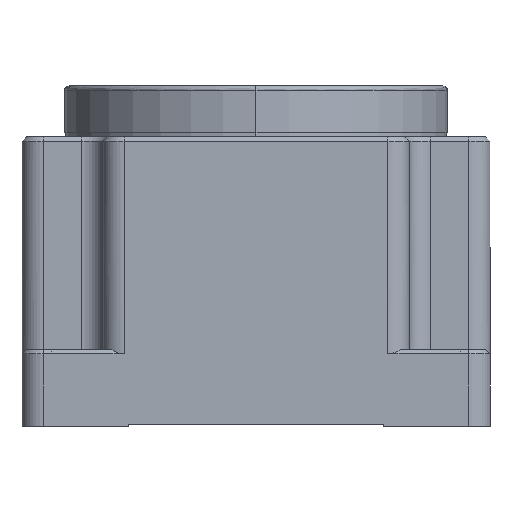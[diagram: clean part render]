
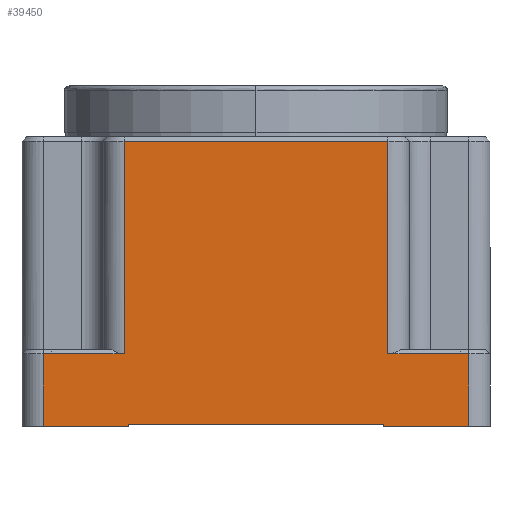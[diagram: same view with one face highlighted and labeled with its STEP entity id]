
A CAD part, left-side view. The second image highlights one B-rep face of the part: STEP entity #39450.
In plain terms, the highlighted planar face has unit normal (-1, 0, 0).
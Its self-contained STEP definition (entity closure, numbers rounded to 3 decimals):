
#359 = EDGE_CURVE ( 'NONE', #35504, #26857, #725, .T. ) ;
#725 = LINE ( 'NONE', #34682, #20765 ) ;
#1179 = CARTESIAN_POINT ( 'NONE',  ( -55., -30., 0.5 ) ) ;
#1224 = VECTOR ( 'NONE', #3228, 1000. ) ;
#1441 = CARTESIAN_POINT ( 'NONE',  ( -55., 50., 68. ) ) ;
#2102 = LINE ( 'NONE', #32654, #52202 ) ;
#2258 = LINE ( 'NONE', #1441, #47690 ) ;
#3228 = DIRECTION ( 'NONE',  ( 0., 0., -1. ) ) ;
#3431 = VERTEX_POINT ( 'NONE', #10629 ) ;
#3775 = ORIENTED_EDGE ( 'NONE', *, *, #40739, .F. ) ;
#5292 = CARTESIAN_POINT ( 'NONE',  ( -55., -55., 0. ) ) ;
#5529 = DIRECTION ( 'NONE',  ( 0., 1., 0. ) ) ;
#6047 = LINE ( 'NONE', #23150, #43224 ) ;
#6172 = LINE ( 'NONE', #37025, #35020 ) ;
#7835 = DIRECTION ( 'NONE',  ( 0., -1., 0. ) ) ;
#9209 = ORIENTED_EDGE ( 'NONE', *, *, #25026, .T. ) ;
#9716 = CARTESIAN_POINT ( 'NONE',  ( -55., -55., 0. ) ) ;
#9832 = DIRECTION ( 'NONE',  ( 0., 0., 1. ) ) ;
#10629 = CARTESIAN_POINT ( 'NONE',  ( -55., 31., 67. ) ) ;
#11403 = EDGE_LOOP ( 'NONE', ( #54863, #3775, #21059, #36455, #9209, #11675, #33981, #16836, #26691, #23672, #23327, #44450 ) ) ;
#11566 = CARTESIAN_POINT ( 'NONE',  ( -55., 31., 17. ) ) ;
#11675 = ORIENTED_EDGE ( 'NONE', *, *, #27032, .F. ) ;
#12901 = LINE ( 'NONE', #21568, #50063 ) ;
#13304 = EDGE_CURVE ( 'NONE', #18276, #35504, #28059, .T. ) ;
#13365 = CARTESIAN_POINT ( 'NONE',  ( -55., 50., 0. ) ) ;
#15105 = LINE ( 'NONE', #32491, #46872 ) ;
#15494 = VECTOR ( 'NONE', #46506, 1000. ) ;
#16836 = ORIENTED_EDGE ( 'NONE', *, *, #359, .F. ) ;
#17076 = LINE ( 'NONE', #54942, #15494 ) ;
#17311 = AXIS2_PLACEMENT_3D ( 'NONE', #19867, #33331, #40903 ) ;
#17480 = VECTOR ( 'NONE', #5529, 1000. ) ;
#18253 = VECTOR ( 'NONE', #18818, 1000. ) ;
#18276 = VERTEX_POINT ( 'NONE', #53299 ) ;
#18818 = DIRECTION ( 'NONE',  ( 0., 0., -1. ) ) ;
#18987 = CARTESIAN_POINT ( 'NONE',  ( -55., -30., 0. ) ) ;
#19464 = DIRECTION ( 'NONE',  ( 0., 1., 0. ) ) ;
#19867 = CARTESIAN_POINT ( 'NONE',  ( -55., -55., 68. ) ) ;
#20765 = VECTOR ( 'NONE', #30464, 1000. ) ;
#20872 = VERTEX_POINT ( 'NONE', #28085 ) ;
#21059 = ORIENTED_EDGE ( 'NONE', *, *, #39638, .T. ) ;
#21568 = CARTESIAN_POINT ( 'NONE',  ( -55., -55., 67. ) ) ;
#23150 = CARTESIAN_POINT ( 'NONE',  ( -55., -55., 17. ) ) ;
#23306 = VERTEX_POINT ( 'NONE', #11566 ) ;
#23327 = ORIENTED_EDGE ( 'NONE', *, *, #43681, .F. ) ;
#23672 = ORIENTED_EDGE ( 'NONE', *, *, #41658, .F. ) ;
#24881 = CARTESIAN_POINT ( 'NONE',  ( -55., -50., 17. ) ) ;
#25026 = EDGE_CURVE ( 'NONE', #31823, #36184, #17076, .T. ) ;
#25903 = EDGE_CURVE ( 'NONE', #26857, #20872, #50605, .T. ) ;
#26691 = ORIENTED_EDGE ( 'NONE', *, *, #13304, .F. ) ;
#26857 = VERTEX_POINT ( 'NONE', #24881 ) ;
#27032 = EDGE_CURVE ( 'NONE', #20872, #36184, #48133, .T. ) ;
#28059 = LINE ( 'NONE', #31166, #18253 ) ;
#28085 = CARTESIAN_POINT ( 'NONE',  ( -55., -50., 0. ) ) ;
#28796 = VERTEX_POINT ( 'NONE', #50166 ) ;
#29509 = VERTEX_POINT ( 'NONE', #44810 ) ;
#29581 = CARTESIAN_POINT ( 'NONE',  ( -55., -50., 68. ) ) ;
#30464 = DIRECTION ( 'NONE',  ( 0., -1., 0. ) ) ;
#31166 = CARTESIAN_POINT ( 'NONE',  ( -55., -31., 68. ) ) ;
#31823 = VERTEX_POINT ( 'NONE', #1179 ) ;
#32491 = CARTESIAN_POINT ( 'NONE',  ( -55., 30., 0.5 ) ) ;
#32537 = DIRECTION ( 'NONE',  ( 0., 0., 1. ) ) ;
#32560 = CARTESIAN_POINT ( 'NONE',  ( -55., 30., 0.5 ) ) ;
#32654 = CARTESIAN_POINT ( 'NONE',  ( -55., -55., 0.5 ) ) ;
#33331 = DIRECTION ( 'NONE',  ( 1., 0., 0. ) ) ;
#33347 = CARTESIAN_POINT ( 'NONE',  ( -55., -31., 17. ) ) ;
#33981 = ORIENTED_EDGE ( 'NONE', *, *, #25903, .F. ) ;
#34682 = CARTESIAN_POINT ( 'NONE',  ( -55., -55., 17. ) ) ;
#35020 = VECTOR ( 'NONE', #32537, 1000. ) ;
#35504 = VERTEX_POINT ( 'NONE', #33347 ) ;
#35843 = VECTOR ( 'NONE', #52114, 1000. ) ;
#36184 = VERTEX_POINT ( 'NONE', #18987 ) ;
#36455 = ORIENTED_EDGE ( 'NONE', *, *, #38723, .F. ) ;
#37025 = CARTESIAN_POINT ( 'NONE',  ( -55., 31., 68. ) ) ;
#38723 = EDGE_CURVE ( 'NONE', #31823, #49273, #2102, .T. ) ;
#39450 = ADVANCED_FACE ( 'NONE', ( #45103 ), #45634, .F. ) ;
#39638 = EDGE_CURVE ( 'NONE', #28796, #49273, #15105, .T. ) ;
#40739 = EDGE_CURVE ( 'NONE', #28796, #43048, #47635, .T. ) ;
#40903 = DIRECTION ( 'NONE',  ( 0., 0., -1. ) ) ;
#41658 = EDGE_CURVE ( 'NONE', #3431, #18276, #12901, .T. ) ;
#43048 = VERTEX_POINT ( 'NONE', #13365 ) ;
#43224 = VECTOR ( 'NONE', #52343, 1000. ) ;
#43681 = EDGE_CURVE ( 'NONE', #23306, #3431, #6172, .T. ) ;
#44450 = ORIENTED_EDGE ( 'NONE', *, *, #48320, .F. ) ;
#44810 = CARTESIAN_POINT ( 'NONE',  ( -55., 50., 17. ) ) ;
#45063 = EDGE_CURVE ( 'NONE', #43048, #29509, #2258, .T. ) ;
#45103 = FACE_OUTER_BOUND ( 'NONE', #11403, .T. ) ;
#45374 = DIRECTION ( 'NONE',  ( 0., 0., 1. ) ) ;
#45634 = PLANE ( 'NONE',  #17311 ) ;
#46506 = DIRECTION ( 'NONE',  ( 0., 0., -1. ) ) ;
#46872 = VECTOR ( 'NONE', #45374, 1000. ) ;
#47635 = LINE ( 'NONE', #5292, #35843 ) ;
#47690 = VECTOR ( 'NONE', #9832, 1000. ) ;
#48133 = LINE ( 'NONE', #9716, #17480 ) ;
#48320 = EDGE_CURVE ( 'NONE', #29509, #23306, #6047, .T. ) ;
#49273 = VERTEX_POINT ( 'NONE', #32560 ) ;
#50063 = VECTOR ( 'NONE', #7835, 1000. ) ;
#50166 = CARTESIAN_POINT ( 'NONE',  ( -55., 30., 0. ) ) ;
#50605 = LINE ( 'NONE', #29581, #1224 ) ;
#52114 = DIRECTION ( 'NONE',  ( 0., 1., 0. ) ) ;
#52202 = VECTOR ( 'NONE', #19464, 1000. ) ;
#52343 = DIRECTION ( 'NONE',  ( 0., -1., 0. ) ) ;
#53299 = CARTESIAN_POINT ( 'NONE',  ( -55., -31., 67. ) ) ;
#54863 = ORIENTED_EDGE ( 'NONE', *, *, #45063, .F. ) ;
#54942 = CARTESIAN_POINT ( 'NONE',  ( -55., -30., 0.5 ) ) ;
